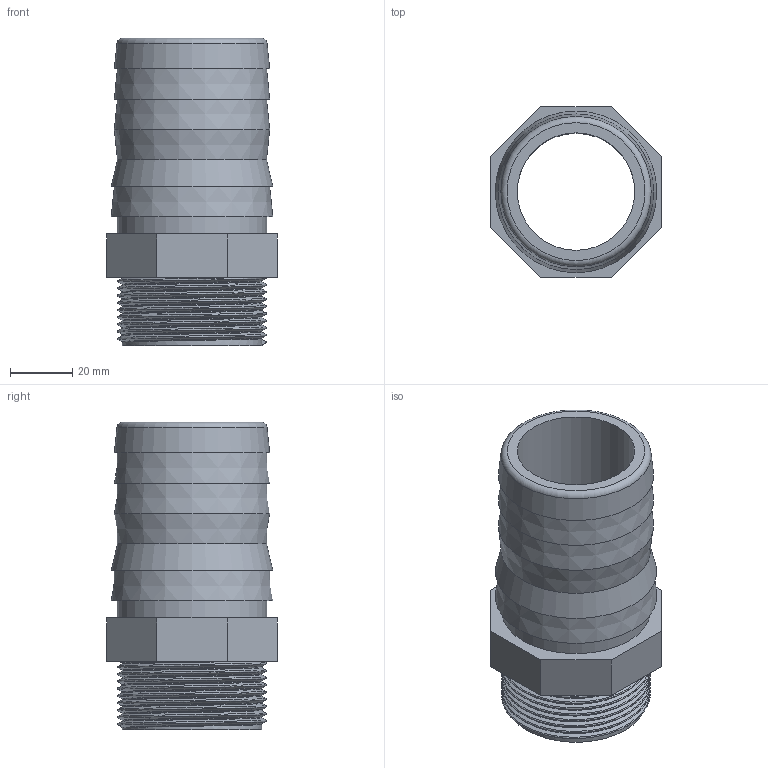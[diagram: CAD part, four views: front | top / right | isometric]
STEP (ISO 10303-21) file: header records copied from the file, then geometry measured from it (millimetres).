
FILE_DESCRIPTION(/* description */ ('PVC portagomma filettato BSP maschio'),/* implementation_level */ '2;1');
FILE_NAME(/* name */ 'C:\Users\POLYPIPE\Desktop\DATASET INVENTOR\LIBRERIA EFFAST\RACCORDI 3DxWEB\RER\3D_RERPGE\3D_RERPGE050F.stp',/* time_stamp */ '2018-01-19T16:54:58+01:00',/* author */ ('POLYPIPE'),/* organization */ ('Polypipe Italia s.r.l.'),/* preprocessor_version */ 'ST-DEVELOPER v16.1',/* originating_system */ 'Autodesk Inventor 2016',/* authorisation */ '');
FILE_SCHEMA (('CONFIG_CONTROL_DESIGN'));
Length unit declared in the file: millimetre
Products named in the file (1): 3D_RERPGE050F
Bounding box: 55 x 55 x 99 mm (x, y, z)
Volume: 81463.1 mm3; surface area: 32848.9 mm2
Topology: 1 solids, 1 shells, 32 faces, 67 edges, 43 vertices
Faces by surface type: plane 17, cone 6, bspline 5, cylinder 3, torus 1
Full cylindrical faces by diameter (mm): 37.8 x1, 44.845 x1, 48 x1
Entity records: 4482 total; most frequent: CARTESIAN_POINT 3827, DIRECTION 121, ORIENTED_EDGE 114, EDGE_CURVE 57, EDGE_LOOP 49, AXIS2_PLACEMENT_3D 47, VERTEX_POINT 42, FACE_OUTER_BOUND 32
